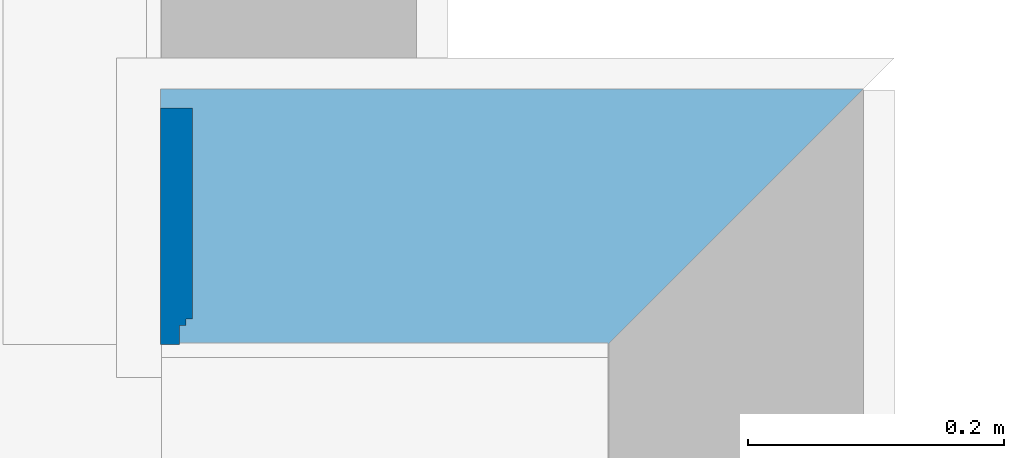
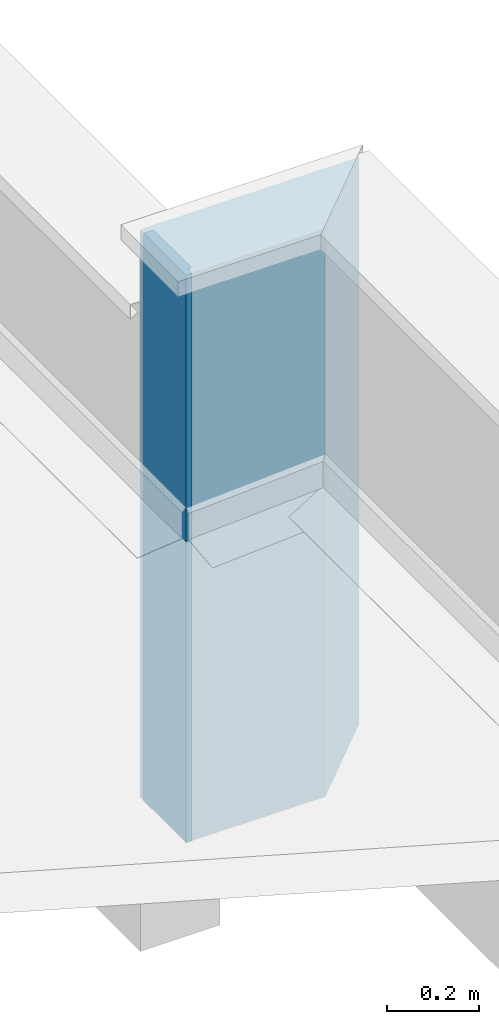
# One storey, part 20 of 25: 1 wall, 1 opening, plus 1 element that does not belong to this part.
"""IFC4 building model written with IfcOpenShell, lengths in metres."""

from ifc_helpers import new_model, entity, si_unit, converted_unit, derived_unit, direction, frame, origin_with_axes, origin_2d_with_axis, place, context, subcontext, project, spatial, line, indexed_curve, rectangle, outline, extrude, polygons, material, layer, layer_set, layer_usage, constituent, constituent_set, type_object, element, fill, save


model = new_model("IFC4")

# Units and contexts
model_context = context("Model", 3, precision=1e-05, world=origin_with_axes(), true_north=direction((0.0, 1.0)))
body_context = subcontext(model_context, "Body", "Model", "MODEL_VIEW")
ifc_project = project(units=[si_unit("LENGTHUNIT", "METRE"), si_unit("AREAUNIT", "SQUARE_METRE"), si_unit("VOLUMEUNIT", "CUBIC_METRE"), converted_unit("PLANEANGLEUNIT", "DEGREE", entity("IfcPlaneAngleMeasure", 0.0174532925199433), si_unit("PLANEANGLEUNIT", "RADIAN"), dimensions=[0, 0, 0, 0, 0, 0, 0]), converted_unit("TIMEUNIT", "Year", entity("IfcTimeMeasure", 31557600.0), si_unit("TIMEUNIT", "SECOND"), dimensions=[0, 0, 1, 0, 0, 0, 0]), si_unit("MASSUNIT", "GRAM", prefix="KILO"), si_unit("THERMODYNAMICTEMPERATUREUNIT", "DEGREE_CELSIUS"), si_unit("LUMINOUSINTENSITYUNIT", "LUMEN"), si_unit("ENERGYUNIT", "JOULE", prefix="MEGA"), derived_unit("THERMALCONDUCTANCEUNIT", [(si_unit("POWERUNIT", "WATT"), 1), (si_unit("LENGTHUNIT", "METRE"), -1), (si_unit("THERMODYNAMICTEMPERATUREUNIT", "KELVIN"), -1)]), derived_unit("SPECIFICHEATCAPACITYUNIT", [(si_unit("ENERGYUNIT", "JOULE"), 1), (si_unit("MASSUNIT", "GRAM", prefix="KILO"), -1), (si_unit("THERMODYNAMICTEMPERATUREUNIT", "KELVIN"), -1)]), derived_unit("MASSDENSITYUNIT", [(si_unit("MASSUNIT", "GRAM", prefix="KILO"), 1), (si_unit("VOLUMEUNIT", "CUBIC_METRE"), -1)])], contexts=[model_context])

# Site, building, storey
site_placement = place(None, origin_with_axes())
site = spatial("IfcSite", under=ifc_project, at=site_placement, Name="PADRÃO", CompositionType="ELEMENT")
building_placement = place(site_placement, origin_with_axes())
building = spatial("IfcBuilding", under=site, at=building_placement, Name="CRECHE PRÉ-ESCOLA TIPO 2", CompositionType="ELEMENT")
storey_placement = place(building_placement, frame((0.0, 0.0, 3.26), z_axis=(0.0, 0.0, 1.0), x_axis=(1.0, 0.0, 0.0)))
storey = spatial("IfcBuildingStorey", under=building, at=storey_placement, Name="COBERTURA", CompositionType="ELEMENT", Elevation=3.26)

# Walls, opening
ifc_material_1 = material(Name="EI-REV-Pintura Acrílica Cor Azul Externa")
ifc_layer_1 = layer(ifc_material_1, 0.015, ventilated="UNKNOWN", Name="EI-REV-Pintura Acrílica Cor Azul Externa")
ifc_material_2 = material(Name="EI-REV-Massa Acrílica (externa)")
ifc_layer_2 = layer(ifc_material_2, 0.005, ventilated="UNKNOWN", Name="EI-REV-Massa Acrílica (externa) 1")
ifc_material_3 = material(Name="EI-REV-Massa única - Fachada")
ifc_layer_3 = layer(ifc_material_3, 0.005, ventilated="UNKNOWN", Name="EI-REV-Massa única - Fachada 1")
ifc_material_4 = material(Name="EI-REV-Chapisco (externo)")
ifc_layer_4 = layer(ifc_material_4, 0.005, ventilated="UNKNOWN", Name="EI-REV-Chapisco (externo) 1")
ifc_material_5 = material(Name="TIJOLO - CERAMICO 14x19x39 - espessura 20cm")
ifc_layer_5 = layer(ifc_material_5, 0.14, ventilated="UNKNOWN", Name="TIJOLO - CERAMICO 14x19x39 - espessura 20cm")
ifc_layer_6 = layer(ifc_material_4, 0.005, ventilated="UNKNOWN", Name="EI-REV-Chapisco (externo) 2")
ifc_layer_7 = layer(ifc_material_3, 0.005, ventilated="UNKNOWN", Name="EI-REV-Massa única - Fachada 2")
ifc_layer_8 = layer(ifc_material_2, 0.005, ventilated="UNKNOWN", Name="EI-REV-Massa Acrílica (externa) 2")
ifc_material_6 = material(Name="EI-REV-Pintura Acrílica Cor Branco Gelo")
ifc_layer_9 = layer(ifc_material_6, 0.015, ventilated="UNKNOWN", Name="EI-REV-Pintura Acrílica Cor Branco Gelo")
ifc_layer_set = layer_set([ifc_layer_1, ifc_layer_2, ifc_layer_3, ifc_layer_4, ifc_layer_5, ifc_layer_6, ifc_layer_7, ifc_layer_8, ifc_layer_9], Name="FNDE-PLAT_AL14-Pintura Azul - Branca")
ifc_layer_usage = layer_usage(ifc_layer_set, "AXIS2", "NEGATIVE", 0.1)
wall_type_1 = type_object("IfcWallType", Name="FNDE-PLAT_AL14-Pintura Azul - Branca 200", PredefinedType="NOTDEFINED")
wall_1_placement = place(storey_placement, frame((-6.44017858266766, 34.7001952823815, 0.0), z_axis=(0.0, 0.0, 1.0), x_axis=(1.0, 0.0, 0.0)))
wall_1 = element("IfcWall", 1, at=wall_1_placement, inside=storey, type_object=wall_type_1, material=ifc_layer_usage, Name="AL14", PredefinedType="NOTDEFINED", context=body_context, shape_type="SweptSolid", body=[
    extrude(outline(indexed_curve([(0.0, -0.100000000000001), (0.350000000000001, -0.100000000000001), (0.550000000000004, 0.100000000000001), (0.0, 0.100000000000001)], segments=[line(1, 2, 3, 4, 1)])), origin_with_axes(), (0.0, 0.0, 1.0), 1.51),
])
opening_placement = place(wall_1_placement, origin_with_axes())
opening = element("IfcOpeningElement", 2, at=opening_placement, cuts=wall_1, Name="AL14", ObjectType="Recess", context=body_context, shape_type="SweptSolid", body=[
    extrude(rectangle(XDim=0.185000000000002, YDim=0.0150000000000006, at=origin_2d_with_axis()), frame((0.00750000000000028, -0.00750000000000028, 0.0), z_axis=(0.0, 0.0, 1.0), x_axis=(0.0, 1.0, 0.0)), (0.0, 0.0, 1.0), 1.51),
    extrude(rectangle(XDim=0.170000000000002, YDim=0.00500000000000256, at=origin_2d_with_axis()), frame((0.0175000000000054, 0.0, 0.0), z_axis=(0.0, 0.0, 1.0), x_axis=(0.0, 1.0, 0.0)), (0.0, 0.0, 1.0), 1.51),
    extrude(rectangle(XDim=0.164999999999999, YDim=0.00499999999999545, at=origin_2d_with_axis()), frame((0.0225000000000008, 0.00249999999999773, 0.0), z_axis=(0.0, 0.0, 1.0), x_axis=(0.0, 1.0, 0.0)), (0.0, 0.0, 1.0), 1.51),
])
ifc_constituent_1 = constituent(ifc_material_6, Name="EI-REV-Pintura Acrílica Cor Branco Gelo")
ifc_constituent_2 = constituent(ifc_material_2, Name="EI-REV-Massa Acrílica (externa)")
ifc_constituent_3 = constituent(ifc_material_3, Name="EI-REV-Massa única - Fachada")
ifc_constituent_set = constituent_set(constituents=[ifc_constituent_1, ifc_constituent_2, ifc_constituent_3])
wall_type_2 = type_object("IfcWallType", Name="Arremate com Dobra Revest 27", PredefinedType="NOTDEFINED")
wall_2_placement = place(opening_placement, frame((0.0125000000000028, 0.0, 0.0), z_axis=(0.0, 0.0, 1.0), x_axis=(-1.0, 0.0, 0.0)))
wall_2 = element("IfcWall", 3, at=wall_2_placement, inside=storey, type_object=wall_type_2, material=ifc_constituent_set, Name="AL14", PredefinedType="NOTDEFINED", context=body_context, shape_type="Tessellation", body=[
    polygons([(0.0125000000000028, 0.100000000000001, 0.0), (-0.00249999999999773, 0.100000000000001, 0.0), (-0.00249999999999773, 0.100000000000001, 1.51), (0.0125000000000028, 0.100000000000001, 1.51), (0.0125000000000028, -0.0850000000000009, 0.0), (-0.00249999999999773, -0.0850000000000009, 0.0), (-0.00249999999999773, -0.0850000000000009, 1.51), (0.0125000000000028, -0.0850000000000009, 1.51)], [[[1, 2, 3, 4]], [[5, 6, 2, 1]], [[6, 7, 3, 2]], [[7, 8, 4, 3]], [[8, 5, 1, 4]], [[5, 8, 7, 6]]], closed=True),
    polygons([(-0.00249999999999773, 0.0850000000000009, 0.0), (-0.00750000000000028, 0.0850000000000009, 0.0), (-0.00750000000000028, 0.0850000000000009, 1.51), (-0.00249999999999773, 0.0850000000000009, 1.51), (-0.00249999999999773, -0.0850000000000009, 0.0), (-0.00750000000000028, -0.0850000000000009, 0.0), (-0.00750000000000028, -0.0850000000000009, 1.51), (-0.00249999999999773, -0.0850000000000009, 1.51)], [[[1, 2, 3, 4]], [[5, 6, 2, 1]], [[6, 7, 3, 2]], [[7, 8, 4, 3]], [[8, 5, 1, 4]], [[5, 8, 7, 6]]], closed=True),
    polygons([(-0.00750000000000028, 0.0799999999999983, 0.0), (-0.0124999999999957, 0.0799999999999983, 0.0), (-0.0124999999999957, 0.0799999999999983, 1.51), (-0.00750000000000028, 0.0799999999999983, 1.51), (-0.00750000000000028, -0.0850000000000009, 0.0), (-0.0124999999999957, -0.0850000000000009, 0.0), (-0.0124999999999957, -0.0850000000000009, 1.51), (-0.00750000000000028, -0.0850000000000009, 1.51)], [[[1, 2, 3, 4]], [[5, 6, 2, 1]], [[6, 7, 3, 2]], [[7, 8, 4, 3]], [[8, 5, 1, 4]], [[5, 8, 7, 6]]], closed=True),
])
fill(opening, wall_2)

save(model, "model.ifc")
